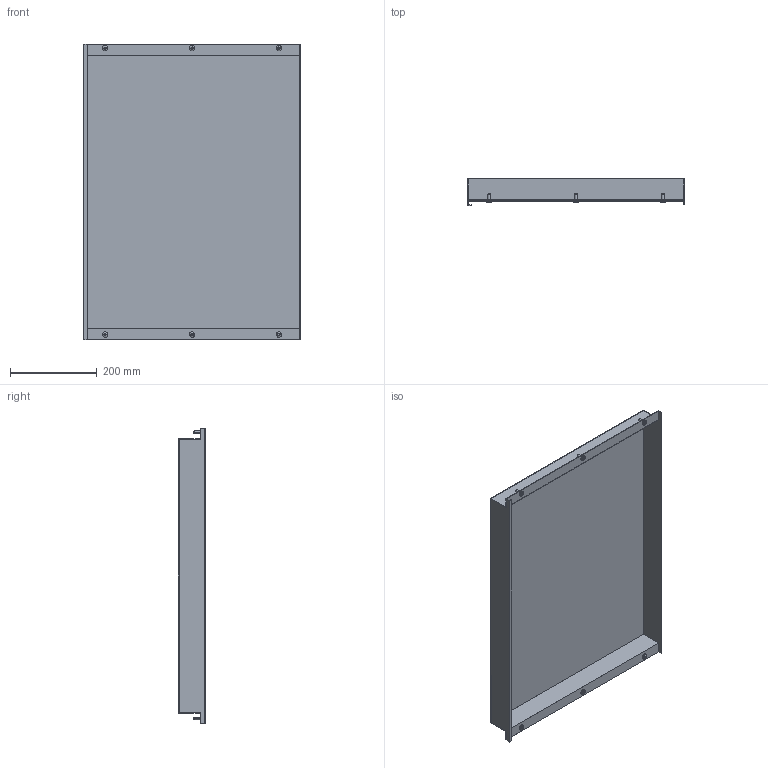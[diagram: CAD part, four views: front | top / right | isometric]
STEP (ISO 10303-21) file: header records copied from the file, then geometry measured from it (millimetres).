
FILE_DESCRIPTION (( 'STEP AP214' ), '1' );
FILE_NAME ('FO-00-PVSU-050-080 Ïëàñòðîí âíóòðåííèé óãëóáëåííûé 500õ800õ50.STEP', '2025-09-29T13:56:15', ( '' ), ( '' ), 'SwSTEP 2.0', 'SolidWorks 2023', '' );
FILE_SCHEMA (( 'AUTOMOTIVE_DESIGN' ));
Length unit declared in the file: millimetre
Products named in the file (3): Винты М6х16 50-80; FO-00-PVSU-050-080 Пластрон внутренний углубленный 500х800х50
Assembly tree (3 placements, depth 2):
  FO-00-PVSU-050-080 Пластрон внутренний углубленный 500х800х50
    FO-00-PVSU-050-080 Пластрон внутренний углубленный 500х800х50
    Винты М6х16 50-80  x2
Bounding box: 498 x 62.5 x 679 mm (x, y, z)
Volume: 660607.5 mm3; surface area: 944504.2 mm2
Topology: 7 solids, 7 shells, 214 faces, 558 edges, 364 vertices
Faces by surface type: cylinder 132, plane 52, cone 18, bspline 12
Entity records: 4464 total; most frequent: CARTESIAN_POINT 1022, ORIENTED_EDGE 708, DIRECTION 692, EDGE_CURVE 354, AXIS2_PLACEMENT_3D 256, VERTEX_POINT 232, LINE 180, VECTOR 180
